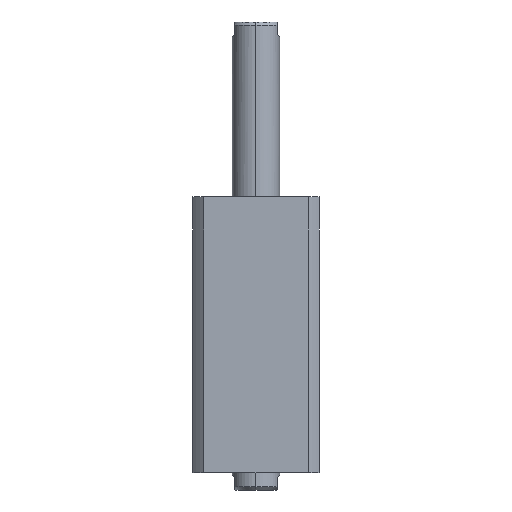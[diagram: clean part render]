
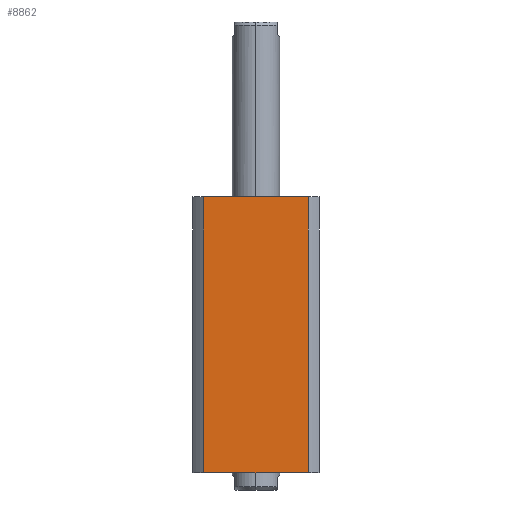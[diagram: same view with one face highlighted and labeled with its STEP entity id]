
A CAD part, left-side view. The second image highlights one B-rep face of the part: STEP entity #8862.
In plain terms, the highlighted planar face has unit normal (-1, 0, 0).
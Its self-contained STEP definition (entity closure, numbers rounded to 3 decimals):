
#94 = DIRECTION ( 'NONE',  ( 0., 0., -1. ) ) ;
#345 = CARTESIAN_POINT ( 'NONE',  ( -40., 33.226, 87.5 ) ) ;
#904 = FACE_OUTER_BOUND ( 'NONE', #7347, .T. ) ;
#1220 = ORIENTED_EDGE ( 'NONE', *, *, #1402, .T. ) ;
#1402 = EDGE_CURVE ( 'NONE', #8175, #6548, #5555, .T. ) ;
#1505 = VECTOR ( 'NONE', #2056, 1000. ) ;
#2056 = DIRECTION ( 'NONE',  ( 0., 0., -1. ) ) ;
#2307 = ORIENTED_EDGE ( 'NONE', *, *, #7514, .T. ) ;
#2343 = CARTESIAN_POINT ( 'NONE',  ( -40., 33.226, -87.5 ) ) ;
#2646 = DIRECTION ( 'NONE',  ( 1., 0., 0. ) ) ;
#2899 = VECTOR ( 'NONE', #7250, 1000. ) ;
#3335 = EDGE_CURVE ( 'NONE', #8175, #3341, #4433, .T. ) ;
#3341 = VERTEX_POINT ( 'NONE', #5754 ) ;
#3799 = VERTEX_POINT ( 'NONE', #6351 ) ;
#3824 = ORIENTED_EDGE ( 'NONE', *, *, #3335, .F. ) ;
#4158 = DIRECTION ( 'NONE',  ( 0., 1., 0. ) ) ;
#4433 = LINE ( 'NONE', #9441, #2899 ) ;
#4874 = PLANE ( 'NONE',  #8238 ) ;
#5097 = CARTESIAN_POINT ( 'NONE',  ( -40., -33.226, 87.5 ) ) ;
#5111 = CARTESIAN_POINT ( 'NONE',  ( -40., 33.226, 87.5 ) ) ;
#5278 = LINE ( 'NONE', #7826, #9053 ) ;
#5555 = LINE ( 'NONE', #6765, #9548 ) ;
#5754 = CARTESIAN_POINT ( 'NONE',  ( -40., -33.226, 87.5 ) ) ;
#6351 = CARTESIAN_POINT ( 'NONE',  ( -40., -33.226, -87.5 ) ) ;
#6419 = ORIENTED_EDGE ( 'NONE', *, *, #7660, .F. ) ;
#6548 = VERTEX_POINT ( 'NONE', #2343 ) ;
#6765 = CARTESIAN_POINT ( 'NONE',  ( -40., 33.226, 87.5 ) ) ;
#7250 = DIRECTION ( 'NONE',  ( 0., -1., 0. ) ) ;
#7347 = EDGE_LOOP ( 'NONE', ( #2307, #6419, #3824, #1220 ) ) ;
#7398 = LINE ( 'NONE', #5097, #1505 ) ;
#7514 = EDGE_CURVE ( 'NONE', #6548, #3799, #5278, .T. ) ;
#7660 = EDGE_CURVE ( 'NONE', #3341, #3799, #7398, .T. ) ;
#7826 = CARTESIAN_POINT ( 'NONE',  ( -40., 33.226, -87.5 ) ) ;
#7861 = DIRECTION ( 'NONE',  ( 0., -1., 0. ) ) ;
#8175 = VERTEX_POINT ( 'NONE', #5111 ) ;
#8238 = AXIS2_PLACEMENT_3D ( 'NONE', #345, #2646, #4158 ) ;
#8862 = ADVANCED_FACE ( 'NONE', ( #904 ), #4874, .F. ) ;
#9053 = VECTOR ( 'NONE', #7861, 1000. ) ;
#9441 = CARTESIAN_POINT ( 'NONE',  ( -40., 33.226, 87.5 ) ) ;
#9548 = VECTOR ( 'NONE', #94, 1000. ) ;
